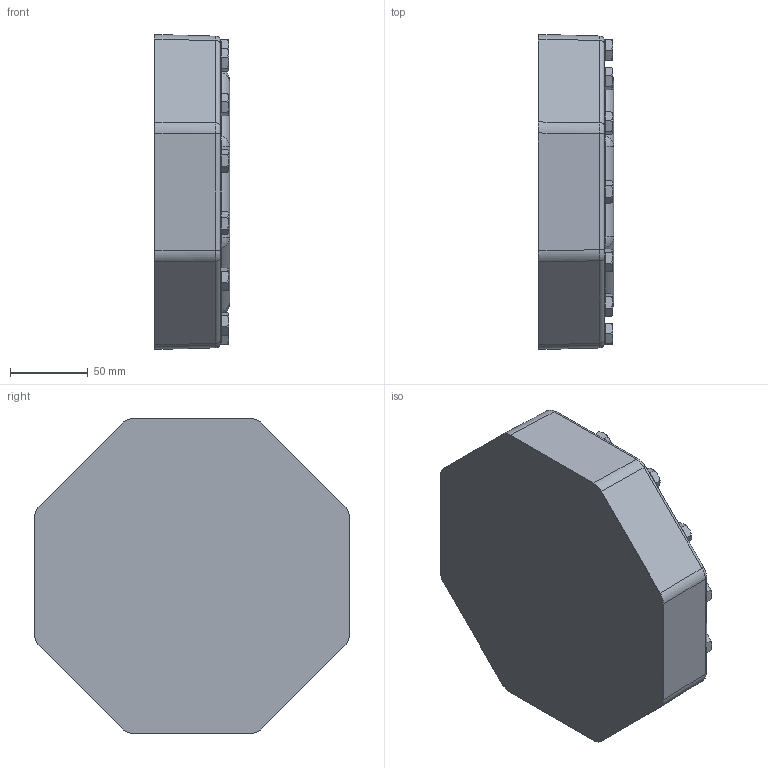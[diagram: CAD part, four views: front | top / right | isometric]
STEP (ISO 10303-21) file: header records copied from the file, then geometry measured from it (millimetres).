
FILE_DESCRIPTION(/* description */ (''),/* implementation_level */ '2;1');
FILE_NAME(/* name */ '2GSL-2FSL.stp',/* time_stamp */ '2023-11-09T11:11:46+01:00',/* author */ (''),/* organization */ (''),/* preprocessor_version */ 'ST-DEVELOPER v19.3',/* originating_system */ 'SIEMENS PLM Software NX2212.3001',/* authorisation */ '');
FILE_SCHEMA (('AUTOMOTIVE_DESIGN { 1 0 10303 214 3 1 1 1 }'));
Length unit declared in the file: millimetre
Products named in the file (2): HOUSING-COVER-CH1; 2GSL-2FSL
Assembly tree (1 placements, depth 2):
  2GSL-2FSL
    HOUSING-COVER-CH1
Bounding box: 48.38 x 202 x 202 mm (x, y, z)
Volume: 1544813.1 mm3; surface area: 99551.6 mm2
Topology: 1 solids, 1 shells, 293 faces, 738 edges, 476 vertices
Faces by surface type: plane 131, cone 84, cylinder 54, bspline 16, torus 8
Full cylindrical faces by diameter (mm): 11.6 x14
Entity records: 11089 total; most frequent: CARTESIAN_POINT 2255, ORIENTED_EDGE 1448, DIRECTION 1306, EDGE_CURVE 724, AXIS2_PLACEMENT_3D 487, VERTEX_POINT 476, EDGE_LOOP 336, LINE 332
